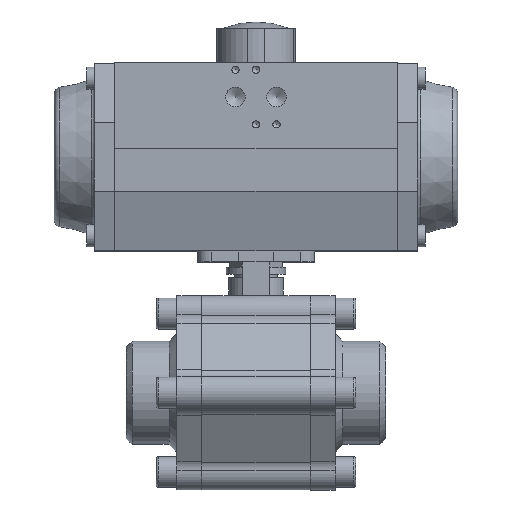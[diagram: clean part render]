
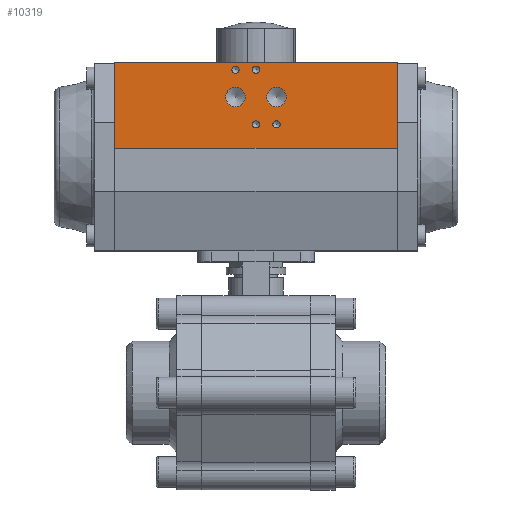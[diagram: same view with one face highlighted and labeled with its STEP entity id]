
A CAD part, top view. The second image highlights one B-rep face of the part: STEP entity #10319.
In plain terms, the highlighted planar face has unit normal (0, 0, 1) as drawn and (1, 0, 0) by its records, which use the part's own axes.
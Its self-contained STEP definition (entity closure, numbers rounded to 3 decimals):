
#88 = VECTOR ( 'NONE', #9673, 1000. ) ;
#212 = CIRCLE ( 'NONE', #8183, 5.722 ) ;
#424 = EDGE_CURVE ( 'NONE', #8683, #8683, #7399, .T. ) ;
#473 = VERTEX_POINT ( 'NONE', #6858 ) ;
#709 = EDGE_LOOP ( 'NONE', ( #1041 ) ) ;
#1041 = ORIENTED_EDGE ( 'NONE', *, *, #10912, .F. ) ;
#1046 = FACE_BOUND ( 'NONE', #1606, .T. ) ;
#1053 = VERTEX_POINT ( 'NONE', #7202 ) ;
#1201 = VECTOR ( 'NONE', #8690, 1000. ) ;
#1313 = EDGE_CURVE ( 'NONE', #4161, #4161, #8850, .T. ) ;
#1399 = CARTESIAN_POINT ( 'NONE',  ( 53., 35., -17.722 ) ) ;
#1543 = EDGE_LOOP ( 'NONE', ( #9848 ) ) ;
#1606 = EDGE_LOOP ( 'NONE', ( #9505 ) ) ;
#2027 = LINE ( 'NONE', #4940, #1201 ) ;
#2189 = EDGE_LOOP ( 'NONE', ( #3149 ) ) ;
#2260 = DIRECTION ( 'NONE',  ( 0., 0., -1. ) ) ;
#2321 = AXIS2_PLACEMENT_3D ( 'NONE', #6596, #3777, #8662 ) ;
#2334 = CARTESIAN_POINT ( 'NONE',  ( 53., 5., -82.5 ) ) ;
#2383 = DIRECTION ( 'NONE',  ( 0., 0., -1. ) ) ;
#2502 = DIRECTION ( 'NONE',  ( 1., 0., 0. ) ) ;
#2625 = DIRECTION ( 'NONE',  ( 0., 0., -1. ) ) ;
#2811 = DIRECTION ( 'NONE',  ( 1., 0., 0. ) ) ;
#2977 = AXIS2_PLACEMENT_3D ( 'NONE', #7261, #10807, #2383 ) ;
#3004 = AXIS2_PLACEMENT_3D ( 'NONE', #10981, #2502, #5454 ) ;
#3005 = EDGE_CURVE ( 'NONE', #473, #1053, #4032, .T. ) ;
#3135 = CARTESIAN_POINT ( 'NONE',  ( 53., 51., 9.9 ) ) ;
#3149 = ORIENTED_EDGE ( 'NONE', *, *, #1313, .F. ) ;
#3242 = VECTOR ( 'NONE', #4272, 1000. ) ;
#3290 = EDGE_CURVE ( 'NONE', #9640, #1053, #5786, .T. ) ;
#3354 = DIRECTION ( 'NONE',  ( 1., 0., 0. ) ) ;
#3446 = PLANE ( 'NONE',  #2977 ) ;
#3500 = FACE_OUTER_BOUND ( 'NONE', #9338, .T. ) ;
#3667 = DIRECTION ( 'NONE',  ( 1., 0., 0. ) ) ;
#3777 = DIRECTION ( 'NONE',  ( 1., 0., 0. ) ) ;
#3946 = CARTESIAN_POINT ( 'NONE',  ( 53., 19., 0. ) ) ;
#4032 = LINE ( 'NONE', #11679, #3242 ) ;
#4161 = VERTEX_POINT ( 'NONE', #5937 ) ;
#4272 = DIRECTION ( 'NONE',  ( 0., 1., 0. ) ) ;
#4281 = EDGE_CURVE ( 'NONE', #5247, #5247, #5332, .T. ) ;
#4343 = CARTESIAN_POINT ( 'NONE',  ( 53., 55., -82.5 ) ) ;
#4625 = ORIENTED_EDGE ( 'NONE', *, *, #424, .F. ) ;
#4712 = CARTESIAN_POINT ( 'NONE',  ( 53., 55., -82.5 ) ) ;
#4940 = CARTESIAN_POINT ( 'NONE',  ( 53., 5., -82.5 ) ) ;
#5247 = VERTEX_POINT ( 'NONE', #11817 ) ;
#5261 = CARTESIAN_POINT ( 'NONE',  ( 53., 51., 12. ) ) ;
#5274 = EDGE_CURVE ( 'NONE', #6176, #6176, #8604, .T. ) ;
#5277 = FACE_BOUND ( 'NONE', #11818, .T. ) ;
#5332 = CIRCLE ( 'NONE', #2321, 2.1 ) ;
#5398 = FACE_BOUND ( 'NONE', #10406, .T. ) ;
#5454 = DIRECTION ( 'NONE',  ( 0., 0., -1. ) ) ;
#5534 = ORIENTED_EDGE ( 'NONE', *, *, #8943, .F. ) ;
#5566 = AXIS2_PLACEMENT_3D ( 'NONE', #5261, #3354, #2625 ) ;
#5786 = LINE ( 'NONE', #4712, #11329 ) ;
#5809 = ORIENTED_EDGE ( 'NONE', *, *, #4281, .F. ) ;
#5937 = CARTESIAN_POINT ( 'NONE',  ( 53., 19., -2.1 ) ) ;
#5974 = LINE ( 'NONE', #7796, #88 ) ;
#6086 = FACE_BOUND ( 'NONE', #2189, .T. ) ;
#6176 = VERTEX_POINT ( 'NONE', #9230 ) ;
#6460 = AXIS2_PLACEMENT_3D ( 'NONE', #11214, #3667, #10222 ) ;
#6596 = CARTESIAN_POINT ( 'NONE',  ( 53., 51., 0. ) ) ;
#6632 = DIRECTION ( 'NONE',  ( 0., 0., -1. ) ) ;
#6825 = DIRECTION ( 'NONE',  ( 1., 0., 0. ) ) ;
#6858 = CARTESIAN_POINT ( 'NONE',  ( 53., 5., 82.5 ) ) ;
#6920 = CARTESIAN_POINT ( 'NONE',  ( 53., 35., 6.277 ) ) ;
#7126 = VERTEX_POINT ( 'NONE', #1399 ) ;
#7202 = CARTESIAN_POINT ( 'NONE',  ( 53., 55., 82.5 ) ) ;
#7261 = CARTESIAN_POINT ( 'NONE',  ( 53., 5., -82.5 ) ) ;
#7399 = CIRCLE ( 'NONE', #6460, 5.722 ) ;
#7505 = CARTESIAN_POINT ( 'NONE',  ( 53., 35., -12. ) ) ;
#7796 = CARTESIAN_POINT ( 'NONE',  ( 53., 5., -82.5 ) ) ;
#7851 = ORIENTED_EDGE ( 'NONE', *, *, #3005, .F. ) ;
#8183 = AXIS2_PLACEMENT_3D ( 'NONE', #7505, #2811, #6632 ) ;
#8604 = CIRCLE ( 'NONE', #3004, 2.1 ) ;
#8638 = ORIENTED_EDGE ( 'NONE', *, *, #10607, .T. ) ;
#8662 = DIRECTION ( 'NONE',  ( 0., 0., -1. ) ) ;
#8683 = VERTEX_POINT ( 'NONE', #6920 ) ;
#8690 = DIRECTION ( 'NONE',  ( 0., 1., 0. ) ) ;
#8850 = CIRCLE ( 'NONE', #9248, 2.1 ) ;
#8943 = EDGE_CURVE ( 'NONE', #9028, #473, #5974, .T. ) ;
#9028 = VERTEX_POINT ( 'NONE', #2334 ) ;
#9230 = CARTESIAN_POINT ( 'NONE',  ( 53., 19., -14.1 ) ) ;
#9248 = AXIS2_PLACEMENT_3D ( 'NONE', #3946, #6825, #2260 ) ;
#9338 = EDGE_LOOP ( 'NONE', ( #11650, #7851, #5534, #8638 ) ) ;
#9505 = ORIENTED_EDGE ( 'NONE', *, *, #5274, .F. ) ;
#9595 = FACE_BOUND ( 'NONE', #1543, .T. ) ;
#9596 = DIRECTION ( 'NONE',  ( 0., 0., 1. ) ) ;
#9640 = VERTEX_POINT ( 'NONE', #4343 ) ;
#9673 = DIRECTION ( 'NONE',  ( 0., 0., 1. ) ) ;
#9775 = VERTEX_POINT ( 'NONE', #3135 ) ;
#9848 = ORIENTED_EDGE ( 'NONE', *, *, #12111, .F. ) ;
#10133 = CIRCLE ( 'NONE', #5566, 2.1 ) ;
#10222 = DIRECTION ( 'NONE',  ( 0., 0., -1. ) ) ;
#10319 = ADVANCED_FACE ( 'NONE', ( #9595, #1046, #6086, #5398, #11977, #5277, #3500 ), #3446, .T. ) ;
#10406 = EDGE_LOOP ( 'NONE', ( #5809 ) ) ;
#10607 = EDGE_CURVE ( 'NONE', #9028, #9640, #2027, .T. ) ;
#10807 = DIRECTION ( 'NONE',  ( 1., 0., 0. ) ) ;
#10912 = EDGE_CURVE ( 'NONE', #7126, #7126, #212, .T. ) ;
#10981 = CARTESIAN_POINT ( 'NONE',  ( 53., 19., -12. ) ) ;
#11214 = CARTESIAN_POINT ( 'NONE',  ( 53., 35., 12. ) ) ;
#11329 = VECTOR ( 'NONE', #9596, 1000. ) ;
#11650 = ORIENTED_EDGE ( 'NONE', *, *, #3290, .T. ) ;
#11679 = CARTESIAN_POINT ( 'NONE',  ( 53., 5., 82.5 ) ) ;
#11817 = CARTESIAN_POINT ( 'NONE',  ( 53., 51., -2.1 ) ) ;
#11818 = EDGE_LOOP ( 'NONE', ( #4625 ) ) ;
#11977 = FACE_BOUND ( 'NONE', #709, .T. ) ;
#12111 = EDGE_CURVE ( 'NONE', #9775, #9775, #10133, .T. ) ;
